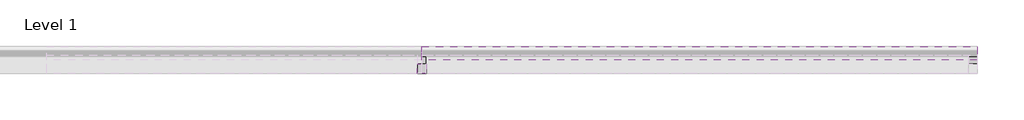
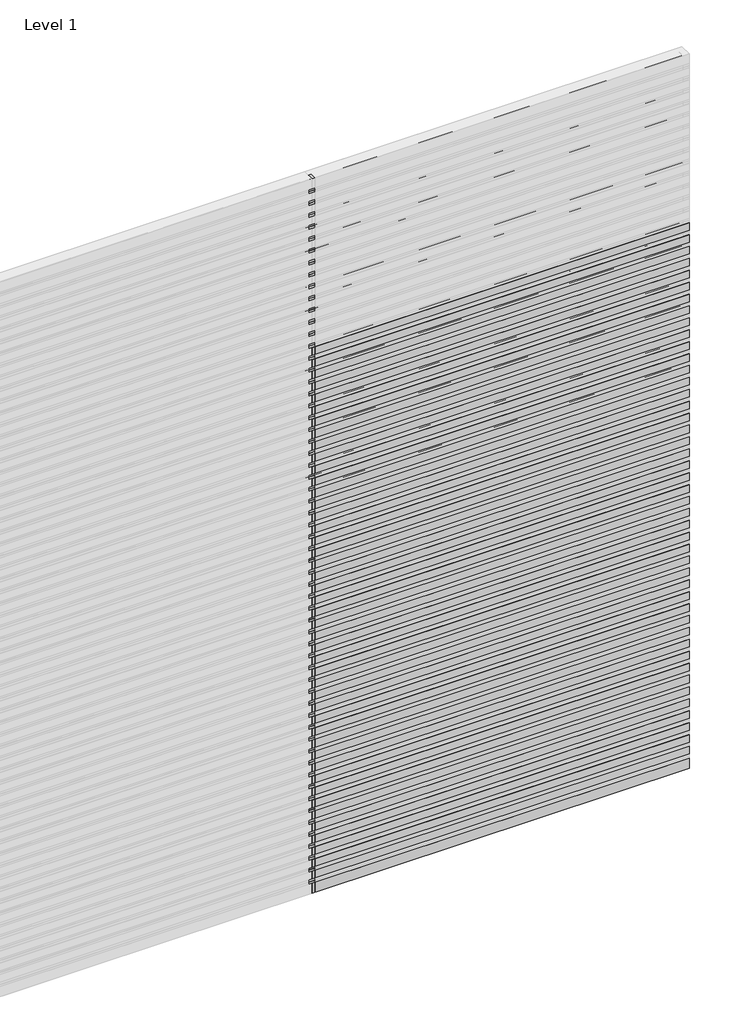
# One storey, part 3 of 4: 89 members, 46 plates.
"""IFC4 building model written with IfcOpenShell, lengths in millimetres."""

from ifc_helpers import new_model, si_unit, origin, place, context, project, spatial, transform, mapped, element, save
from components import rectangular_mullion_c274bac7, rectangular_mullion_ae434dd9, empty_system_panel_empty_03c9d606, empty_system_panel_empty_9aeebe66

model = new_model("IFC4")

# Units and contexts
model_context = context("Model", 3, world=origin())
ifc_project = project(units=[si_unit("LENGTHUNIT", "METRE", prefix="MILLI")], contexts=[model_context])

# Site, building, storey
site = spatial("IfcSite", under=ifc_project)
building = spatial("IfcBuilding", under=site)
storey = spatial("IfcBuildingStorey", under=building, Name="Level 1", Elevation=0.0)

# Members
placement = place(None, origin())
rectangular_mullion_shape = rectangular_mullion_c274bac7(model_context)
element("IfcMember", 1, ObjectType="Rectangular Mullion : RSen_21_CWM_blade - 100 ellips - 45°_gen_duco projects", at=placement, inside=storey, context=model_context, shape_type="MappedRepresentation", body=[
    mapped(rectangular_mullion_shape, transform((3000.0, 3000.0, 3100.0), x_axis=(0.0, 0.0, 1.0), y_axis=(0.0, 1.0, 0.0), z_axis=(-1.0, 0.0, 0.0))),
])
element("IfcMember", 2, ObjectType="Rectangular Mullion : RSen_21_CWM_blade - 100 ellips - 45°_gen_duco projects", at=placement, inside=storey, context=model_context, shape_type="MappedRepresentation", body=[
    mapped(rectangular_mullion_shape, transform((3000.0, 3000.0, 3200.0), x_axis=(0.0, 0.0, 1.0), y_axis=(0.0, 1.0, 0.0), z_axis=(-1.0, 0.0, 0.0))),
])
element("IfcMember", 3, ObjectType="Rectangular Mullion : RSen_21_CWM_blade - 100 ellips - 45°_gen_duco projects", at=placement, inside=storey, context=model_context, shape_type="MappedRepresentation", body=[
    mapped(rectangular_mullion_shape, transform((3000.0, 3000.0, 3300.0), x_axis=(0.0, 0.0, 1.0), y_axis=(0.0, 1.0, 0.0), z_axis=(-1.0, 0.0, 0.0))),
])
element("IfcMember", 4, ObjectType="Rectangular Mullion : RSen_21_CWM_blade - 100 ellips - 45°_gen_duco projects", at=placement, inside=storey, context=model_context, shape_type="MappedRepresentation", body=[
    mapped(rectangular_mullion_shape, transform((3000.0, 3000.0, 3400.0), x_axis=(0.0, 0.0, 1.0), y_axis=(0.0, 1.0, 0.0), z_axis=(-1.0, 0.0, 0.0))),
])
element("IfcMember", 5, ObjectType="Rectangular Mullion : RSen_21_CWM_blade - 100 ellips - 45°_gen_duco projects", at=placement, inside=storey, context=model_context, shape_type="MappedRepresentation", body=[
    mapped(rectangular_mullion_shape, transform((3000.0, 3000.0, 3500.0), x_axis=(0.0, 0.0, 1.0), y_axis=(0.0, 1.0, 0.0), z_axis=(-1.0, 0.0, 0.0))),
])
element("IfcMember", 6, ObjectType="Rectangular Mullion : RSen_21_CWM_blade - 100 ellips - 45°_gen_duco projects", at=placement, inside=storey, context=model_context, shape_type="MappedRepresentation", body=[
    mapped(rectangular_mullion_shape, transform((3000.0, 3000.0, 3600.0), x_axis=(0.0, 0.0, 1.0), y_axis=(0.0, 1.0, 0.0), z_axis=(-1.0, 0.0, 0.0))),
])
element("IfcMember", 7, ObjectType="Rectangular Mullion : RSen_21_CWM_blade - 100 ellips - 45°_gen_duco projects", at=placement, inside=storey, context=model_context, shape_type="MappedRepresentation", body=[
    mapped(rectangular_mullion_shape, transform((3000.0, 3000.0, 3700.0), x_axis=(0.0, 0.0, 1.0), y_axis=(0.0, 1.0, 0.0), z_axis=(-1.0, 0.0, 0.0))),
])
element("IfcMember", 8, ObjectType="Rectangular Mullion : RSen_21_CWM_blade - 100 ellips - 45°_gen_duco projects", at=placement, inside=storey, context=model_context, shape_type="MappedRepresentation", body=[
    mapped(rectangular_mullion_shape, transform((3000.0, 3000.0, 3800.0), x_axis=(0.0, 0.0, 1.0), y_axis=(0.0, 1.0, 0.0), z_axis=(-1.0, 0.0, 0.0))),
])
element("IfcMember", 9, ObjectType="Rectangular Mullion : RSen_21_CWM_blade - 100 ellips - 45°_gen_duco projects", at=placement, inside=storey, context=model_context, shape_type="MappedRepresentation", body=[
    mapped(rectangular_mullion_shape, transform((3000.0, 3000.0, 3900.0), x_axis=(0.0, 0.0, 1.0), y_axis=(0.0, 1.0, 0.0), z_axis=(-1.0, 0.0, 0.0))),
])
element("IfcMember", 10, ObjectType="Rectangular Mullion : RSen_21_CWM_blade - 100 ellips - 45°_gen_duco projects", at=placement, inside=storey, context=model_context, shape_type="MappedRepresentation", body=[
    mapped(rectangular_mullion_shape, transform((3000.0, 3000.0, 4000.0), x_axis=(0.0, 0.0, 1.0), y_axis=(0.0, 1.0, 0.0), z_axis=(-1.0, 0.0, 0.0))),
])
element("IfcMember", 11, ObjectType="Rectangular Mullion : RSen_21_CWM_blade - 100 ellips - 45°_gen_duco projects", at=placement, inside=storey, context=model_context, shape_type="MappedRepresentation", body=[
    mapped(rectangular_mullion_shape, transform((3000.0, 3000.0, 4100.0), x_axis=(0.0, 0.0, 1.0), y_axis=(0.0, 1.0, 0.0), z_axis=(-1.0, 0.0, 0.0))),
])
element("IfcMember", 12, ObjectType="Rectangular Mullion : RSen_21_CWM_blade - 100 ellips - 45°_gen_duco projects", at=placement, inside=storey, context=model_context, shape_type="MappedRepresentation", body=[
    mapped(rectangular_mullion_shape, transform((3000.0, 3000.0, 4200.0), x_axis=(0.0, 0.0, 1.0), y_axis=(0.0, 1.0, 0.0), z_axis=(-1.0, 0.0, 0.0))),
])
element("IfcMember", 13, ObjectType="Rectangular Mullion : RSen_21_CWM_blade - 100 ellips - 45°_gen_duco projects", at=placement, inside=storey, context=model_context, shape_type="MappedRepresentation", body=[
    mapped(rectangular_mullion_shape, transform((3000.0, 3000.0, 4300.0), x_axis=(0.0, 0.0, 1.0), y_axis=(0.0, 1.0, 0.0), z_axis=(-1.0, 0.0, 0.0))),
])
element("IfcMember", 14, ObjectType="Rectangular Mullion : RSen_21_CWM_blade - 100 ellips - 45°_gen_duco projects", at=placement, inside=storey, context=model_context, shape_type="MappedRepresentation", body=[
    mapped(rectangular_mullion_shape, transform((3000.0, 3000.0, 4400.0), x_axis=(0.0, 0.0, 1.0), y_axis=(0.0, 1.0, 0.0), z_axis=(-1.0, 0.0, 0.0))),
])
element("IfcMember", 15, ObjectType="Rectangular Mullion : RSen_21_CWM_blade - 100 ellips - 45°_gen_duco projects", at=placement, inside=storey, context=model_context, shape_type="MappedRepresentation", body=[
    mapped(rectangular_mullion_shape, transform((3000.0, 3000.0, 4500.0), x_axis=(0.0, 0.0, 1.0), y_axis=(0.0, 1.0, 0.0), z_axis=(-1.0, 0.0, 0.0))),
])
element("IfcMember", 16, ObjectType="Rectangular Mullion : RSen_21_CWM_blade - 100 ellips - 45°_gen_duco projects", at=placement, inside=storey, context=model_context, shape_type="MappedRepresentation", body=[
    mapped(rectangular_mullion_shape, transform((3000.0, 3000.0, 4600.0), x_axis=(0.0, 0.0, 1.0), y_axis=(0.0, 1.0, 0.0), z_axis=(-1.0, 0.0, 0.0))),
])
element("IfcMember", 17, ObjectType="Rectangular Mullion : RSen_21_CWM_blade - 100 ellips - 45°_gen_duco projects", at=placement, inside=storey, context=model_context, shape_type="MappedRepresentation", body=[
    mapped(rectangular_mullion_shape, transform((3000.0, 3000.0, 4700.0), x_axis=(0.0, 0.0, 1.0), y_axis=(0.0, 1.0, 0.0), z_axis=(-1.0, 0.0, 0.0))),
])
element("IfcMember", 18, ObjectType="Rectangular Mullion : RSen_21_CWM_blade - 100 ellips - 45°_gen_duco projects", at=placement, inside=storey, context=model_context, shape_type="MappedRepresentation", body=[
    mapped(rectangular_mullion_shape, transform((3000.0, 3000.0, 4800.0), x_axis=(0.0, 0.0, 1.0), y_axis=(0.0, 1.0, 0.0), z_axis=(-1.0, 0.0, 0.0))),
])
element("IfcMember", 19, ObjectType="Rectangular Mullion : RSen_21_CWM_blade - 100 ellips - 45°_gen_duco projects", at=placement, inside=storey, context=model_context, shape_type="MappedRepresentation", body=[
    mapped(rectangular_mullion_shape, transform((3000.0, 3000.0, 4900.0), x_axis=(0.0, 0.0, 1.0), y_axis=(0.0, 1.0, 0.0), z_axis=(-1.0, 0.0, 0.0))),
])
element("IfcMember", 20, ObjectType="Rectangular Mullion : RSen_21_CWM_blade - 100 ellips - 45°_gen_duco projects", at=placement, inside=storey, context=model_context, shape_type="MappedRepresentation", body=[
    mapped(rectangular_mullion_shape, transform((3000.0, 3000.0, 5000.0), x_axis=(0.0, 0.0, 1.0), y_axis=(0.0, 1.0, 0.0), z_axis=(-1.0, 0.0, 0.0))),
])
element("IfcMember", 21, ObjectType="Rectangular Mullion : RSen_21_CWM_blade - 100 ellips - 45°_gen_duco projects", at=placement, inside=storey, context=model_context, shape_type="MappedRepresentation", body=[
    mapped(rectangular_mullion_shape, transform((3000.0, 3000.0, 5100.0), x_axis=(0.0, 0.0, 1.0), y_axis=(0.0, 1.0, 0.0), z_axis=(-1.0, 0.0, 0.0))),
])
element("IfcMember", 22, ObjectType="Rectangular Mullion : RSen_21_CWM_blade - 100 ellips - 45°_gen_duco projects", at=placement, inside=storey, context=model_context, shape_type="MappedRepresentation", body=[
    mapped(rectangular_mullion_shape, transform((3000.0, 3000.0, 5200.0), x_axis=(0.0, 0.0, 1.0), y_axis=(0.0, 1.0, 0.0), z_axis=(-1.0, 0.0, 0.0))),
])
element("IfcMember", 23, ObjectType="Rectangular Mullion : RSen_21_CWM_blade - 100 ellips - 45°_gen_duco projects", at=placement, inside=storey, context=model_context, shape_type="MappedRepresentation", body=[
    mapped(rectangular_mullion_shape, transform((3000.0, 3000.0, 5300.0), x_axis=(0.0, 0.0, 1.0), y_axis=(0.0, 1.0, 0.0), z_axis=(-1.0, 0.0, 0.0))),
])
element("IfcMember", 24, ObjectType="Rectangular Mullion : RSen_21_CWM_blade - 100 ellips - 45°_gen_duco projects", at=placement, inside=storey, context=model_context, shape_type="MappedRepresentation", body=[
    mapped(rectangular_mullion_shape, transform((3000.0, 3000.0, 5400.0), x_axis=(0.0, 0.0, 1.0), y_axis=(0.0, 1.0, 0.0), z_axis=(-1.0, 0.0, 0.0))),
])
element("IfcMember", 25, ObjectType="Rectangular Mullion : RSen_21_CWM_blade - 100 ellips - 45°_gen_duco projects", at=placement, inside=storey, context=model_context, shape_type="MappedRepresentation", body=[
    mapped(rectangular_mullion_shape, transform((3000.0, 3000.0, 5500.0), x_axis=(0.0, 0.0, 1.0), y_axis=(0.0, 1.0, 0.0), z_axis=(-1.0, 0.0, 0.0))),
])
element("IfcMember", 26, ObjectType="Rectangular Mullion : RSen_21_CWM_blade - 100 ellips - 45°_gen_duco projects", at=placement, inside=storey, context=model_context, shape_type="MappedRepresentation", body=[
    mapped(rectangular_mullion_shape, transform((3000.0, 3000.0, 5600.0), x_axis=(0.0, 0.0, 1.0), y_axis=(0.0, 1.0, 0.0), z_axis=(-1.0, 0.0, 0.0))),
])
element("IfcMember", 27, ObjectType="Rectangular Mullion : RSen_21_CWM_blade - 100 ellips - 45°_gen_duco projects", at=placement, inside=storey, context=model_context, shape_type="MappedRepresentation", body=[
    mapped(rectangular_mullion_shape, transform((3000.0, 3000.0, 5700.0), x_axis=(0.0, 0.0, 1.0), y_axis=(0.0, 1.0, 0.0), z_axis=(-1.0, 0.0, 0.0))),
])
element("IfcMember", 28, ObjectType="Rectangular Mullion : RSen_21_CWM_blade - 100 ellips - 45°_gen_duco projects", at=placement, inside=storey, context=model_context, shape_type="MappedRepresentation", body=[
    mapped(rectangular_mullion_shape, transform((3000.0, 3000.0, 5800.0), x_axis=(0.0, 0.0, 1.0), y_axis=(0.0, 1.0, 0.0), z_axis=(-1.0, 0.0, 0.0))),
])
element("IfcMember", 29, ObjectType="Rectangular Mullion : RSen_21_CWM_blade - 100 ellips - 45°_gen_duco projects", at=placement, inside=storey, context=model_context, shape_type="MappedRepresentation", body=[
    mapped(rectangular_mullion_shape, transform((3000.0, 3000.0, 5900.0), x_axis=(0.0, 0.0, 1.0), y_axis=(0.0, 1.0, 0.0), z_axis=(-1.0, 0.0, 0.0))),
])
rectangular_mullion_2_shape = rectangular_mullion_ae434dd9(model_context)
element("IfcMember", 30, ObjectType="Rectangular Mullion : RSen_21_CWM_support profile 50x50_gen_duco projects", at=placement, inside=storey, context=model_context, shape_type="MappedRepresentation", body=[
    mapped(rectangular_mullion_2_shape, transform((3000.0, 3000.0, 0.0), x_axis=(-1.0, 0.0, 0.0), y_axis=(0.0, 1.0, 0.0), z_axis=(0.0, 0.0, -1.0))),
])
element("IfcMember", 31, ObjectType="Rectangular Mullion : RSen_21_CWM_support profile 50x50_gen_duco projects", at=placement, inside=storey, context=model_context, shape_type="MappedRepresentation", body=[
    mapped(rectangular_mullion_2_shape, transform((3000.0, 3000.0, 100.0), x_axis=(-1.0, 0.0, 0.0), y_axis=(0.0, 1.0, 0.0), z_axis=(0.0, 0.0, -1.0))),
])
element("IfcMember", 32, ObjectType="Rectangular Mullion : RSen_21_CWM_support profile 50x50_gen_duco projects", at=placement, inside=storey, context=model_context, shape_type="MappedRepresentation", body=[
    mapped(rectangular_mullion_2_shape, transform((3000.0, 3000.0, 200.0), x_axis=(-1.0, 0.0, 0.0), y_axis=(0.0, 1.0, 0.0), z_axis=(0.0, 0.0, -1.0))),
])
element("IfcMember", 33, ObjectType="Rectangular Mullion : RSen_21_CWM_support profile 50x50_gen_duco projects", at=placement, inside=storey, context=model_context, shape_type="MappedRepresentation", body=[
    mapped(rectangular_mullion_2_shape, transform((3000.0, 3000.0, 300.0), x_axis=(-1.0, 0.0, 0.0), y_axis=(0.0, 1.0, 0.0), z_axis=(0.0, 0.0, -1.0))),
])
element("IfcMember", 34, ObjectType="Rectangular Mullion : RSen_21_CWM_support profile 50x50_gen_duco projects", at=placement, inside=storey, context=model_context, shape_type="MappedRepresentation", body=[
    mapped(rectangular_mullion_2_shape, transform((3000.0, 3000.0, 400.0), x_axis=(-1.0, 0.0, 0.0), y_axis=(0.0, 1.0, 0.0), z_axis=(0.0, 0.0, -1.0))),
])
element("IfcMember", 35, ObjectType="Rectangular Mullion : RSen_21_CWM_support profile 50x50_gen_duco projects", at=placement, inside=storey, context=model_context, shape_type="MappedRepresentation", body=[
    mapped(rectangular_mullion_2_shape, transform((3000.0, 3000.0, 500.0), x_axis=(-1.0, 0.0, 0.0), y_axis=(0.0, 1.0, 0.0), z_axis=(0.0, 0.0, -1.0))),
])
element("IfcMember", 36, ObjectType="Rectangular Mullion : RSen_21_CWM_support profile 50x50_gen_duco projects", at=placement, inside=storey, context=model_context, shape_type="MappedRepresentation", body=[
    mapped(rectangular_mullion_2_shape, transform((3000.0, 3000.0, 600.0), x_axis=(-1.0, 0.0, 0.0), y_axis=(0.0, 1.0, 0.0), z_axis=(0.0, 0.0, -1.0))),
])
element("IfcMember", 37, ObjectType="Rectangular Mullion : RSen_21_CWM_support profile 50x50_gen_duco projects", at=placement, inside=storey, context=model_context, shape_type="MappedRepresentation", body=[
    mapped(rectangular_mullion_2_shape, transform((3000.0, 3000.0, 700.0), x_axis=(-1.0, 0.0, 0.0), y_axis=(0.0, 1.0, 0.0), z_axis=(0.0, 0.0, -1.0))),
])
element("IfcMember", 38, ObjectType="Rectangular Mullion : RSen_21_CWM_support profile 50x50_gen_duco projects", at=placement, inside=storey, context=model_context, shape_type="MappedRepresentation", body=[
    mapped(rectangular_mullion_2_shape, transform((3000.0, 3000.0, 800.0), x_axis=(-1.0, 0.0, 0.0), y_axis=(0.0, 1.0, 0.0), z_axis=(0.0, 0.0, -1.0))),
])
element("IfcMember", 39, ObjectType="Rectangular Mullion : RSen_21_CWM_support profile 50x50_gen_duco projects", at=placement, inside=storey, context=model_context, shape_type="MappedRepresentation", body=[
    mapped(rectangular_mullion_2_shape, transform((3000.0, 3000.0, 900.0), x_axis=(-1.0, 0.0, 0.0), y_axis=(0.0, 1.0, 0.0), z_axis=(0.0, 0.0, -1.0))),
])
element("IfcMember", 40, ObjectType="Rectangular Mullion : RSen_21_CWM_support profile 50x50_gen_duco projects", at=placement, inside=storey, context=model_context, shape_type="MappedRepresentation", body=[
    mapped(rectangular_mullion_2_shape, transform((3000.0, 3000.0, 1000.0), x_axis=(-1.0, 0.0, 0.0), y_axis=(0.0, 1.0, 0.0), z_axis=(0.0, 0.0, -1.0))),
])
element("IfcMember", 41, ObjectType="Rectangular Mullion : RSen_21_CWM_support profile 50x50_gen_duco projects", at=placement, inside=storey, context=model_context, shape_type="MappedRepresentation", body=[
    mapped(rectangular_mullion_2_shape, transform((3000.0, 3000.0, 1100.0), x_axis=(-1.0, 0.0, 0.0), y_axis=(0.0, 1.0, 0.0), z_axis=(0.0, 0.0, -1.0))),
])
element("IfcMember", 42, ObjectType="Rectangular Mullion : RSen_21_CWM_support profile 50x50_gen_duco projects", at=placement, inside=storey, context=model_context, shape_type="MappedRepresentation", body=[
    mapped(rectangular_mullion_2_shape, transform((3000.0, 3000.0, 1200.0), x_axis=(-1.0, 0.0, 0.0), y_axis=(0.0, 1.0, 0.0), z_axis=(0.0, 0.0, -1.0))),
])
element("IfcMember", 43, ObjectType="Rectangular Mullion : RSen_21_CWM_support profile 50x50_gen_duco projects", at=placement, inside=storey, context=model_context, shape_type="MappedRepresentation", body=[
    mapped(rectangular_mullion_2_shape, transform((3000.0, 3000.0, 1300.0), x_axis=(-1.0, 0.0, 0.0), y_axis=(0.0, 1.0, 0.0), z_axis=(0.0, 0.0, -1.0))),
])
element("IfcMember", 44, ObjectType="Rectangular Mullion : RSen_21_CWM_support profile 50x50_gen_duco projects", at=placement, inside=storey, context=model_context, shape_type="MappedRepresentation", body=[
    mapped(rectangular_mullion_2_shape, transform((3000.0, 3000.0, 1400.0), x_axis=(-1.0, 0.0, 0.0), y_axis=(0.0, 1.0, 0.0), z_axis=(0.0, 0.0, -1.0))),
])
element("IfcMember", 45, ObjectType="Rectangular Mullion : RSen_21_CWM_support profile 50x50_gen_duco projects", at=placement, inside=storey, context=model_context, shape_type="MappedRepresentation", body=[
    mapped(rectangular_mullion_2_shape, transform((3000.0, 3000.0, 1500.0), x_axis=(-1.0, 0.0, 0.0), y_axis=(0.0, 1.0, 0.0), z_axis=(0.0, 0.0, -1.0))),
])
element("IfcMember", 46, ObjectType="Rectangular Mullion : RSen_21_CWM_support profile 50x50_gen_duco projects", at=placement, inside=storey, context=model_context, shape_type="MappedRepresentation", body=[
    mapped(rectangular_mullion_2_shape, transform((3000.0, 3000.0, 1600.0), x_axis=(-1.0, 0.0, 0.0), y_axis=(0.0, 1.0, 0.0), z_axis=(0.0, 0.0, -1.0))),
])
element("IfcMember", 47, ObjectType="Rectangular Mullion : RSen_21_CWM_support profile 50x50_gen_duco projects", at=placement, inside=storey, context=model_context, shape_type="MappedRepresentation", body=[
    mapped(rectangular_mullion_2_shape, transform((3000.0, 3000.0, 1700.0), x_axis=(-1.0, 0.0, 0.0), y_axis=(0.0, 1.0, 0.0), z_axis=(0.0, 0.0, -1.0))),
])
element("IfcMember", 48, ObjectType="Rectangular Mullion : RSen_21_CWM_support profile 50x50_gen_duco projects", at=placement, inside=storey, context=model_context, shape_type="MappedRepresentation", body=[
    mapped(rectangular_mullion_2_shape, transform((3000.0, 3000.0, 1800.0), x_axis=(-1.0, 0.0, 0.0), y_axis=(0.0, 1.0, 0.0), z_axis=(0.0, 0.0, -1.0))),
])
element("IfcMember", 49, ObjectType="Rectangular Mullion : RSen_21_CWM_support profile 50x50_gen_duco projects", at=placement, inside=storey, context=model_context, shape_type="MappedRepresentation", body=[
    mapped(rectangular_mullion_2_shape, transform((3000.0, 3000.0, 1900.0), x_axis=(-1.0, 0.0, 0.0), y_axis=(0.0, 1.0, 0.0), z_axis=(0.0, 0.0, -1.0))),
])
element("IfcMember", 50, ObjectType="Rectangular Mullion : RSen_21_CWM_support profile 50x50_gen_duco projects", at=placement, inside=storey, context=model_context, shape_type="MappedRepresentation", body=[
    mapped(rectangular_mullion_2_shape, transform((3000.0, 3000.0, 2000.0), x_axis=(-1.0, 0.0, 0.0), y_axis=(0.0, 1.0, 0.0), z_axis=(0.0, 0.0, -1.0))),
])
element("IfcMember", 51, ObjectType="Rectangular Mullion : RSen_21_CWM_support profile 50x50_gen_duco projects", at=placement, inside=storey, context=model_context, shape_type="MappedRepresentation", body=[
    mapped(rectangular_mullion_2_shape, transform((3000.0, 3000.0, 2100.0), x_axis=(-1.0, 0.0, 0.0), y_axis=(0.0, 1.0, 0.0), z_axis=(0.0, 0.0, -1.0))),
])
element("IfcMember", 52, ObjectType="Rectangular Mullion : RSen_21_CWM_support profile 50x50_gen_duco projects", at=placement, inside=storey, context=model_context, shape_type="MappedRepresentation", body=[
    mapped(rectangular_mullion_2_shape, transform((3000.0, 3000.0, 2200.0), x_axis=(-1.0, 0.0, 0.0), y_axis=(0.0, 1.0, 0.0), z_axis=(0.0, 0.0, -1.0))),
])
element("IfcMember", 53, ObjectType="Rectangular Mullion : RSen_21_CWM_support profile 50x50_gen_duco projects", at=placement, inside=storey, context=model_context, shape_type="MappedRepresentation", body=[
    mapped(rectangular_mullion_2_shape, transform((3000.0, 3000.0, 2300.0), x_axis=(-1.0, 0.0, 0.0), y_axis=(0.0, 1.0, 0.0), z_axis=(0.0, 0.0, -1.0))),
])
element("IfcMember", 54, ObjectType="Rectangular Mullion : RSen_21_CWM_support profile 50x50_gen_duco projects", at=placement, inside=storey, context=model_context, shape_type="MappedRepresentation", body=[
    mapped(rectangular_mullion_2_shape, transform((3000.0, 3000.0, 2400.0), x_axis=(-1.0, 0.0, 0.0), y_axis=(0.0, 1.0, 0.0), z_axis=(0.0, 0.0, -1.0))),
])
element("IfcMember", 55, ObjectType="Rectangular Mullion : RSen_21_CWM_support profile 50x50_gen_duco projects", at=placement, inside=storey, context=model_context, shape_type="MappedRepresentation", body=[
    mapped(rectangular_mullion_2_shape, transform((3000.0, 3000.0, 2500.0), x_axis=(-1.0, 0.0, 0.0), y_axis=(0.0, 1.0, 0.0), z_axis=(0.0, 0.0, -1.0))),
])
element("IfcMember", 56, ObjectType="Rectangular Mullion : RSen_21_CWM_support profile 50x50_gen_duco projects", at=placement, inside=storey, context=model_context, shape_type="MappedRepresentation", body=[
    mapped(rectangular_mullion_2_shape, transform((3000.0, 3000.0, 2600.0), x_axis=(-1.0, 0.0, 0.0), y_axis=(0.0, 1.0, 0.0), z_axis=(0.0, 0.0, -1.0))),
])
element("IfcMember", 57, ObjectType="Rectangular Mullion : RSen_21_CWM_support profile 50x50_gen_duco projects", at=placement, inside=storey, context=model_context, shape_type="MappedRepresentation", body=[
    mapped(rectangular_mullion_2_shape, transform((3000.0, 3000.0, 2700.0), x_axis=(-1.0, 0.0, 0.0), y_axis=(0.0, 1.0, 0.0), z_axis=(0.0, 0.0, -1.0))),
])
element("IfcMember", 58, ObjectType="Rectangular Mullion : RSen_21_CWM_support profile 50x50_gen_duco projects", at=placement, inside=storey, context=model_context, shape_type="MappedRepresentation", body=[
    mapped(rectangular_mullion_2_shape, transform((3000.0, 3000.0, 2800.0), x_axis=(-1.0, 0.0, 0.0), y_axis=(0.0, 1.0, 0.0), z_axis=(0.0, 0.0, -1.0))),
])
element("IfcMember", 59, ObjectType="Rectangular Mullion : RSen_21_CWM_support profile 50x50_gen_duco projects", at=placement, inside=storey, context=model_context, shape_type="MappedRepresentation", body=[
    mapped(rectangular_mullion_2_shape, transform((3000.0, 3000.0, 2900.0), x_axis=(-1.0, 0.0, 0.0), y_axis=(0.0, 1.0, 0.0), z_axis=(0.0, 0.0, -1.0))),
])
element("IfcMember", 60, ObjectType="Rectangular Mullion : RSen_21_CWM_support profile 50x50_gen_duco projects", at=placement, inside=storey, context=model_context, shape_type="MappedRepresentation", body=[
    mapped(rectangular_mullion_2_shape, transform((3000.0, 3000.0, 3000.0), x_axis=(-1.0, 0.0, 0.0), y_axis=(0.0, 1.0, 0.0), z_axis=(0.0, 0.0, -1.0))),
])
element("IfcMember", 61, ObjectType="Rectangular Mullion : RSen_21_CWM_support profile 50x50_gen_duco projects", at=placement, inside=storey, context=model_context, shape_type="MappedRepresentation", body=[
    mapped(rectangular_mullion_2_shape, transform((3000.0, 3000.0, 3100.0), x_axis=(-1.0, 0.0, 0.0), y_axis=(0.0, 1.0, 0.0), z_axis=(0.0, 0.0, -1.0))),
])
element("IfcMember", 62, ObjectType="Rectangular Mullion : RSen_21_CWM_support profile 50x50_gen_duco projects", at=placement, inside=storey, context=model_context, shape_type="MappedRepresentation", body=[
    mapped(rectangular_mullion_2_shape, transform((3000.0, 3000.0, 3200.0), x_axis=(-1.0, 0.0, 0.0), y_axis=(0.0, 1.0, 0.0), z_axis=(0.0, 0.0, -1.0))),
])
element("IfcMember", 63, ObjectType="Rectangular Mullion : RSen_21_CWM_support profile 50x50_gen_duco projects", at=placement, inside=storey, context=model_context, shape_type="MappedRepresentation", body=[
    mapped(rectangular_mullion_2_shape, transform((3000.0, 3000.0, 3300.0), x_axis=(-1.0, 0.0, 0.0), y_axis=(0.0, 1.0, 0.0), z_axis=(0.0, 0.0, -1.0))),
])
element("IfcMember", 64, ObjectType="Rectangular Mullion : RSen_21_CWM_support profile 50x50_gen_duco projects", at=placement, inside=storey, context=model_context, shape_type="MappedRepresentation", body=[
    mapped(rectangular_mullion_2_shape, transform((3000.0, 3000.0, 3400.0), x_axis=(-1.0, 0.0, 0.0), y_axis=(0.0, 1.0, 0.0), z_axis=(0.0, 0.0, -1.0))),
])
element("IfcMember", 65, ObjectType="Rectangular Mullion : RSen_21_CWM_support profile 50x50_gen_duco projects", at=placement, inside=storey, context=model_context, shape_type="MappedRepresentation", body=[
    mapped(rectangular_mullion_2_shape, transform((3000.0, 3000.0, 3500.0), x_axis=(-1.0, 0.0, 0.0), y_axis=(0.0, 1.0, 0.0), z_axis=(0.0, 0.0, -1.0))),
])
element("IfcMember", 66, ObjectType="Rectangular Mullion : RSen_21_CWM_support profile 50x50_gen_duco projects", at=placement, inside=storey, context=model_context, shape_type="MappedRepresentation", body=[
    mapped(rectangular_mullion_2_shape, transform((3000.0, 3000.0, 3600.0), x_axis=(-1.0, 0.0, 0.0), y_axis=(0.0, 1.0, 0.0), z_axis=(0.0, 0.0, -1.0))),
])
element("IfcMember", 67, ObjectType="Rectangular Mullion : RSen_21_CWM_support profile 50x50_gen_duco projects", at=placement, inside=storey, context=model_context, shape_type="MappedRepresentation", body=[
    mapped(rectangular_mullion_2_shape, transform((3000.0, 3000.0, 3700.0), x_axis=(-1.0, 0.0, 0.0), y_axis=(0.0, 1.0, 0.0), z_axis=(0.0, 0.0, -1.0))),
])
element("IfcMember", 68, ObjectType="Rectangular Mullion : RSen_21_CWM_support profile 50x50_gen_duco projects", at=placement, inside=storey, context=model_context, shape_type="MappedRepresentation", body=[
    mapped(rectangular_mullion_2_shape, transform((3000.0, 3000.0, 3800.0), x_axis=(-1.0, 0.0, 0.0), y_axis=(0.0, 1.0, 0.0), z_axis=(0.0, 0.0, -1.0))),
])
element("IfcMember", 69, ObjectType="Rectangular Mullion : RSen_21_CWM_support profile 50x50_gen_duco projects", at=placement, inside=storey, context=model_context, shape_type="MappedRepresentation", body=[
    mapped(rectangular_mullion_2_shape, transform((3000.0, 3000.0, 3900.0), x_axis=(-1.0, 0.0, 0.0), y_axis=(0.0, 1.0, 0.0), z_axis=(0.0, 0.0, -1.0))),
])
element("IfcMember", 70, ObjectType="Rectangular Mullion : RSen_21_CWM_support profile 50x50_gen_duco projects", at=placement, inside=storey, context=model_context, shape_type="MappedRepresentation", body=[
    mapped(rectangular_mullion_2_shape, transform((3000.0, 3000.0, 4000.0), x_axis=(-1.0, 0.0, 0.0), y_axis=(0.0, 1.0, 0.0), z_axis=(0.0, 0.0, -1.0))),
])
element("IfcMember", 71, ObjectType="Rectangular Mullion : RSen_21_CWM_support profile 50x50_gen_duco projects", at=placement, inside=storey, context=model_context, shape_type="MappedRepresentation", body=[
    mapped(rectangular_mullion_2_shape, transform((3000.0, 3000.0, 4100.0), x_axis=(-1.0, 0.0, 0.0), y_axis=(0.0, 1.0, 0.0), z_axis=(0.0, 0.0, -1.0))),
])
element("IfcMember", 72, ObjectType="Rectangular Mullion : RSen_21_CWM_support profile 50x50_gen_duco projects", at=placement, inside=storey, context=model_context, shape_type="MappedRepresentation", body=[
    mapped(rectangular_mullion_2_shape, transform((3000.0, 3000.0, 4200.0), x_axis=(-1.0, 0.0, 0.0), y_axis=(0.0, 1.0, 0.0), z_axis=(0.0, 0.0, -1.0))),
])
element("IfcMember", 73, ObjectType="Rectangular Mullion : RSen_21_CWM_support profile 50x50_gen_duco projects", at=placement, inside=storey, context=model_context, shape_type="MappedRepresentation", body=[
    mapped(rectangular_mullion_2_shape, transform((3000.0, 3000.0, 4300.0), x_axis=(-1.0, 0.0, 0.0), y_axis=(0.0, 1.0, 0.0), z_axis=(0.0, 0.0, -1.0))),
])
element("IfcMember", 74, ObjectType="Rectangular Mullion : RSen_21_CWM_support profile 50x50_gen_duco projects", at=placement, inside=storey, context=model_context, shape_type="MappedRepresentation", body=[
    mapped(rectangular_mullion_2_shape, transform((3000.0, 3000.0, 4400.0), x_axis=(-1.0, 0.0, 0.0), y_axis=(0.0, 1.0, 0.0), z_axis=(0.0, 0.0, -1.0))),
])
element("IfcMember", 75, ObjectType="Rectangular Mullion : RSen_21_CWM_support profile 50x50_gen_duco projects", at=placement, inside=storey, context=model_context, shape_type="MappedRepresentation", body=[
    mapped(rectangular_mullion_2_shape, transform((3000.0, 3000.0, 4500.0), x_axis=(-1.0, 0.0, 0.0), y_axis=(0.0, 1.0, 0.0), z_axis=(0.0, 0.0, -1.0))),
])
element("IfcMember", 76, ObjectType="Rectangular Mullion : RSen_21_CWM_support profile 50x50_gen_duco projects", at=placement, inside=storey, context=model_context, shape_type="MappedRepresentation", body=[
    mapped(rectangular_mullion_2_shape, transform((3000.0, 3000.0, 4600.0), x_axis=(-1.0, 0.0, 0.0), y_axis=(0.0, 1.0, 0.0), z_axis=(0.0, 0.0, -1.0))),
])
element("IfcMember", 77, ObjectType="Rectangular Mullion : RSen_21_CWM_support profile 50x50_gen_duco projects", at=placement, inside=storey, context=model_context, shape_type="MappedRepresentation", body=[
    mapped(rectangular_mullion_2_shape, transform((3000.0, 3000.0, 4700.0), x_axis=(-1.0, 0.0, 0.0), y_axis=(0.0, 1.0, 0.0), z_axis=(0.0, 0.0, -1.0))),
])
element("IfcMember", 78, ObjectType="Rectangular Mullion : RSen_21_CWM_support profile 50x50_gen_duco projects", at=placement, inside=storey, context=model_context, shape_type="MappedRepresentation", body=[
    mapped(rectangular_mullion_2_shape, transform((3000.0, 3000.0, 4800.0), x_axis=(-1.0, 0.0, 0.0), y_axis=(0.0, 1.0, 0.0), z_axis=(0.0, 0.0, -1.0))),
])
element("IfcMember", 79, ObjectType="Rectangular Mullion : RSen_21_CWM_support profile 50x50_gen_duco projects", at=placement, inside=storey, context=model_context, shape_type="MappedRepresentation", body=[
    mapped(rectangular_mullion_2_shape, transform((3000.0, 3000.0, 4900.0), x_axis=(-1.0, 0.0, 0.0), y_axis=(0.0, 1.0, 0.0), z_axis=(0.0, 0.0, -1.0))),
])
element("IfcMember", 80, ObjectType="Rectangular Mullion : RSen_21_CWM_support profile 50x50_gen_duco projects", at=placement, inside=storey, context=model_context, shape_type="MappedRepresentation", body=[
    mapped(rectangular_mullion_2_shape, transform((3000.0, 3000.0, 5000.0), x_axis=(-1.0, 0.0, 0.0), y_axis=(0.0, 1.0, 0.0), z_axis=(0.0, 0.0, -1.0))),
])
element("IfcMember", 81, ObjectType="Rectangular Mullion : RSen_21_CWM_support profile 50x50_gen_duco projects", at=placement, inside=storey, context=model_context, shape_type="MappedRepresentation", body=[
    mapped(rectangular_mullion_2_shape, transform((3000.0, 3000.0, 5100.0), x_axis=(-1.0, 0.0, 0.0), y_axis=(0.0, 1.0, 0.0), z_axis=(0.0, 0.0, -1.0))),
])
element("IfcMember", 82, ObjectType="Rectangular Mullion : RSen_21_CWM_support profile 50x50_gen_duco projects", at=placement, inside=storey, context=model_context, shape_type="MappedRepresentation", body=[
    mapped(rectangular_mullion_2_shape, transform((3000.0, 3000.0, 5200.0), x_axis=(-1.0, 0.0, 0.0), y_axis=(0.0, 1.0, 0.0), z_axis=(0.0, 0.0, -1.0))),
])
element("IfcMember", 83, ObjectType="Rectangular Mullion : RSen_21_CWM_support profile 50x50_gen_duco projects", at=placement, inside=storey, context=model_context, shape_type="MappedRepresentation", body=[
    mapped(rectangular_mullion_2_shape, transform((3000.0, 3000.0, 5300.0), x_axis=(-1.0, 0.0, 0.0), y_axis=(0.0, 1.0, 0.0), z_axis=(0.0, 0.0, -1.0))),
])
element("IfcMember", 84, ObjectType="Rectangular Mullion : RSen_21_CWM_support profile 50x50_gen_duco projects", at=placement, inside=storey, context=model_context, shape_type="MappedRepresentation", body=[
    mapped(rectangular_mullion_2_shape, transform((3000.0, 3000.0, 5400.0), x_axis=(-1.0, 0.0, 0.0), y_axis=(0.0, 1.0, 0.0), z_axis=(0.0, 0.0, -1.0))),
])
element("IfcMember", 85, ObjectType="Rectangular Mullion : RSen_21_CWM_support profile 50x50_gen_duco projects", at=placement, inside=storey, context=model_context, shape_type="MappedRepresentation", body=[
    mapped(rectangular_mullion_2_shape, transform((3000.0, 3000.0, 5500.0), x_axis=(-1.0, 0.0, 0.0), y_axis=(0.0, 1.0, 0.0), z_axis=(0.0, 0.0, -1.0))),
])
element("IfcMember", 86, ObjectType="Rectangular Mullion : RSen_21_CWM_support profile 50x50_gen_duco projects", at=placement, inside=storey, context=model_context, shape_type="MappedRepresentation", body=[
    mapped(rectangular_mullion_2_shape, transform((3000.0, 3000.0, 5600.0), x_axis=(-1.0, 0.0, 0.0), y_axis=(0.0, 1.0, 0.0), z_axis=(0.0, 0.0, -1.0))),
])
element("IfcMember", 87, ObjectType="Rectangular Mullion : RSen_21_CWM_support profile 50x50_gen_duco projects", at=placement, inside=storey, context=model_context, shape_type="MappedRepresentation", body=[
    mapped(rectangular_mullion_2_shape, transform((3000.0, 3000.0, 5700.0), x_axis=(-1.0, 0.0, 0.0), y_axis=(0.0, 1.0, 0.0), z_axis=(0.0, 0.0, -1.0))),
])
element("IfcMember", 88, ObjectType="Rectangular Mullion : RSen_21_CWM_support profile 50x50_gen_duco projects", at=placement, inside=storey, context=model_context, shape_type="MappedRepresentation", body=[
    mapped(rectangular_mullion_2_shape, transform((3000.0, 3000.0, 5800.0), x_axis=(-1.0, 0.0, 0.0), y_axis=(0.0, 1.0, 0.0), z_axis=(0.0, 0.0, -1.0))),
])
element("IfcMember", 89, ObjectType="Rectangular Mullion : RSen_21_CWM_support profile 50x50_gen_duco projects", at=placement, inside=storey, context=model_context, shape_type="MappedRepresentation", body=[
    mapped(rectangular_mullion_2_shape, transform((3000.0, 3000.0, 5900.0), x_axis=(-1.0, 0.0, 0.0), y_axis=(0.0, 1.0, 0.0), z_axis=(0.0, 0.0, -1.0))),
])

# Plates
empty_system_panel_empty_shape = empty_system_panel_empty_03c9d606(model_context)
element("IfcPlate", 90, ObjectType="Empty System Panel : Empty", at=placement, inside=storey, context=model_context, shape_type="MappedRepresentation", body=[
    mapped(empty_system_panel_empty_shape, transform((4500.0, 3000.0, 0.0), x_axis=(-1.0, 0.0, 0.0), y_axis=(0.0, -1.0, 0.0), z_axis=(0.0, 0.0, 1.0))),
])
empty_system_panel_empty_2_shape = empty_system_panel_empty_9aeebe66(model_context)
element("IfcPlate", 91, ObjectType="Empty System Panel : Empty", at=placement, inside=storey, context=model_context, shape_type="MappedRepresentation", body=[
    mapped(empty_system_panel_empty_2_shape, transform((4500.0, 3000.0, 118.3847763), x_axis=(-1.0, 0.0, 0.0), y_axis=(0.0, -1.0, 0.0), z_axis=(0.0, 0.0, 1.0))),
])
element("IfcPlate", 92, ObjectType="Empty System Panel : Empty", at=placement, inside=storey, context=model_context, shape_type="MappedRepresentation", body=[
    mapped(empty_system_panel_empty_2_shape, transform((4500.0, 3000.0, 218.3847763), x_axis=(-1.0, 0.0, 0.0), y_axis=(0.0, -1.0, 0.0), z_axis=(0.0, 0.0, 1.0))),
])
element("IfcPlate", 93, ObjectType="Empty System Panel : Empty", at=placement, inside=storey, context=model_context, shape_type="MappedRepresentation", body=[
    mapped(empty_system_panel_empty_2_shape, transform((4500.0, 3000.0, 318.3847763), x_axis=(-1.0, 0.0, 0.0), y_axis=(0.0, -1.0, 0.0), z_axis=(0.0, 0.0, 1.0))),
])
element("IfcPlate", 94, ObjectType="Empty System Panel : Empty", at=placement, inside=storey, context=model_context, shape_type="MappedRepresentation", body=[
    mapped(empty_system_panel_empty_2_shape, transform((4500.0, 3000.0, 418.3847763), x_axis=(-1.0, 0.0, 0.0), y_axis=(0.0, -1.0, 0.0), z_axis=(0.0, 0.0, 1.0))),
])
element("IfcPlate", 95, ObjectType="Empty System Panel : Empty", at=placement, inside=storey, context=model_context, shape_type="MappedRepresentation", body=[
    mapped(empty_system_panel_empty_2_shape, transform((4500.0, 3000.0, 518.3847763), x_axis=(-1.0, 0.0, 0.0), y_axis=(0.0, -1.0, 0.0), z_axis=(0.0, 0.0, 1.0))),
])
element("IfcPlate", 96, ObjectType="Empty System Panel : Empty", at=placement, inside=storey, context=model_context, shape_type="MappedRepresentation", body=[
    mapped(empty_system_panel_empty_2_shape, transform((4500.0, 3000.0, 618.3847763), x_axis=(-1.0, 0.0, 0.0), y_axis=(0.0, -1.0, 0.0), z_axis=(0.0, 0.0, 1.0))),
])
element("IfcPlate", 97, ObjectType="Empty System Panel : Empty", at=placement, inside=storey, context=model_context, shape_type="MappedRepresentation", body=[
    mapped(empty_system_panel_empty_2_shape, transform((4500.0, 3000.0, 718.3847763), x_axis=(-1.0, 0.0, 0.0), y_axis=(0.0, -1.0, 0.0), z_axis=(0.0, 0.0, 1.0))),
])
element("IfcPlate", 98, ObjectType="Empty System Panel : Empty", at=placement, inside=storey, context=model_context, shape_type="MappedRepresentation", body=[
    mapped(empty_system_panel_empty_2_shape, transform((4500.0, 3000.0, 818.3847763), x_axis=(-1.0, 0.0, 0.0), y_axis=(0.0, -1.0, 0.0), z_axis=(0.0, 0.0, 1.0))),
])
element("IfcPlate", 99, ObjectType="Empty System Panel : Empty", at=placement, inside=storey, context=model_context, shape_type="MappedRepresentation", body=[
    mapped(empty_system_panel_empty_2_shape, transform((4500.0, 3000.0, 918.3847763), x_axis=(-1.0, 0.0, 0.0), y_axis=(0.0, -1.0, 0.0), z_axis=(0.0, 0.0, 1.0))),
])
element("IfcPlate", 100, ObjectType="Empty System Panel : Empty", at=placement, inside=storey, context=model_context, shape_type="MappedRepresentation", body=[
    mapped(empty_system_panel_empty_2_shape, transform((4500.0, 3000.0, 1018.3847763), x_axis=(-1.0, 0.0, 0.0), y_axis=(0.0, -1.0, 0.0), z_axis=(0.0, 0.0, 1.0))),
])
element("IfcPlate", 101, ObjectType="Empty System Panel : Empty", at=placement, inside=storey, context=model_context, shape_type="MappedRepresentation", body=[
    mapped(empty_system_panel_empty_2_shape, transform((4500.0, 3000.0, 1118.3847763), x_axis=(-1.0, 0.0, 0.0), y_axis=(0.0, -1.0, 0.0), z_axis=(0.0, 0.0, 1.0))),
])
element("IfcPlate", 102, ObjectType="Empty System Panel : Empty", at=placement, inside=storey, context=model_context, shape_type="MappedRepresentation", body=[
    mapped(empty_system_panel_empty_2_shape, transform((4500.0, 3000.0, 1218.3847763), x_axis=(-1.0, 0.0, 0.0), y_axis=(0.0, -1.0, 0.0), z_axis=(0.0, 0.0, 1.0))),
])
element("IfcPlate", 103, ObjectType="Empty System Panel : Empty", at=placement, inside=storey, context=model_context, shape_type="MappedRepresentation", body=[
    mapped(empty_system_panel_empty_2_shape, transform((4500.0, 3000.0, 1318.3847763), x_axis=(-1.0, 0.0, 0.0), y_axis=(0.0, -1.0, 0.0), z_axis=(0.0, 0.0, 1.0))),
])
element("IfcPlate", 104, ObjectType="Empty System Panel : Empty", at=placement, inside=storey, context=model_context, shape_type="MappedRepresentation", body=[
    mapped(empty_system_panel_empty_2_shape, transform((4500.0, 3000.0, 1418.3847763), x_axis=(-1.0, 0.0, 0.0), y_axis=(0.0, -1.0, 0.0), z_axis=(0.0, 0.0, 1.0))),
])
element("IfcPlate", 105, ObjectType="Empty System Panel : Empty", at=placement, inside=storey, context=model_context, shape_type="MappedRepresentation", body=[
    mapped(empty_system_panel_empty_2_shape, transform((4500.0, 3000.0, 1518.3847763), x_axis=(-1.0, 0.0, 0.0), y_axis=(0.0, -1.0, 0.0), z_axis=(0.0, 0.0, 1.0))),
])
element("IfcPlate", 106, ObjectType="Empty System Panel : Empty", at=placement, inside=storey, context=model_context, shape_type="MappedRepresentation", body=[
    mapped(empty_system_panel_empty_2_shape, transform((4500.0, 3000.0, 1618.3847763), x_axis=(-1.0, 0.0, 0.0), y_axis=(0.0, -1.0, 0.0), z_axis=(0.0, 0.0, 1.0))),
])
element("IfcPlate", 107, ObjectType="Empty System Panel : Empty", at=placement, inside=storey, context=model_context, shape_type="MappedRepresentation", body=[
    mapped(empty_system_panel_empty_2_shape, transform((4500.0, 3000.0, 1718.3847763), x_axis=(-1.0, 0.0, 0.0), y_axis=(0.0, -1.0, 0.0), z_axis=(0.0, 0.0, 1.0))),
])
element("IfcPlate", 108, ObjectType="Empty System Panel : Empty", at=placement, inside=storey, context=model_context, shape_type="MappedRepresentation", body=[
    mapped(empty_system_panel_empty_2_shape, transform((4500.0, 3000.0, 1818.3847763), x_axis=(-1.0, 0.0, 0.0), y_axis=(0.0, -1.0, 0.0), z_axis=(0.0, 0.0, 1.0))),
])
element("IfcPlate", 109, ObjectType="Empty System Panel : Empty", at=placement, inside=storey, context=model_context, shape_type="MappedRepresentation", body=[
    mapped(empty_system_panel_empty_2_shape, transform((4500.0, 3000.0, 1918.3847763), x_axis=(-1.0, 0.0, 0.0), y_axis=(0.0, -1.0, 0.0), z_axis=(0.0, 0.0, 1.0))),
])
element("IfcPlate", 110, ObjectType="Empty System Panel : Empty", at=placement, inside=storey, context=model_context, shape_type="MappedRepresentation", body=[
    mapped(empty_system_panel_empty_2_shape, transform((4500.0, 3000.0, 2018.3847763), x_axis=(-1.0, 0.0, 0.0), y_axis=(0.0, -1.0, 0.0), z_axis=(0.0, 0.0, 1.0))),
])
element("IfcPlate", 111, ObjectType="Empty System Panel : Empty", at=placement, inside=storey, context=model_context, shape_type="MappedRepresentation", body=[
    mapped(empty_system_panel_empty_2_shape, transform((4500.0, 3000.0, 2118.3847763), x_axis=(-1.0, 0.0, 0.0), y_axis=(0.0, -1.0, 0.0), z_axis=(0.0, 0.0, 1.0))),
])
element("IfcPlate", 112, ObjectType="Empty System Panel : Empty", at=placement, inside=storey, context=model_context, shape_type="MappedRepresentation", body=[
    mapped(empty_system_panel_empty_2_shape, transform((4500.0, 3000.0, 2218.3847763), x_axis=(-1.0, 0.0, 0.0), y_axis=(0.0, -1.0, 0.0), z_axis=(0.0, 0.0, 1.0))),
])
element("IfcPlate", 113, ObjectType="Empty System Panel : Empty", at=placement, inside=storey, context=model_context, shape_type="MappedRepresentation", body=[
    mapped(empty_system_panel_empty_2_shape, transform((4500.0, 3000.0, 2318.3847763), x_axis=(-1.0, 0.0, 0.0), y_axis=(0.0, -1.0, 0.0), z_axis=(0.0, 0.0, 1.0))),
])
element("IfcPlate", 114, ObjectType="Empty System Panel : Empty", at=placement, inside=storey, context=model_context, shape_type="MappedRepresentation", body=[
    mapped(empty_system_panel_empty_2_shape, transform((4500.0, 3000.0, 2418.3847763), x_axis=(-1.0, 0.0, 0.0), y_axis=(0.0, -1.0, 0.0), z_axis=(0.0, 0.0, 1.0))),
])
element("IfcPlate", 115, ObjectType="Empty System Panel : Empty", at=placement, inside=storey, context=model_context, shape_type="MappedRepresentation", body=[
    mapped(empty_system_panel_empty_2_shape, transform((4500.0, 3000.0, 2518.3847763), x_axis=(-1.0, 0.0, 0.0), y_axis=(0.0, -1.0, 0.0), z_axis=(0.0, 0.0, 1.0))),
])
element("IfcPlate", 116, ObjectType="Empty System Panel : Empty", at=placement, inside=storey, context=model_context, shape_type="MappedRepresentation", body=[
    mapped(empty_system_panel_empty_2_shape, transform((4500.0, 3000.0, 2618.3847763), x_axis=(-1.0, 0.0, 0.0), y_axis=(0.0, -1.0, 0.0), z_axis=(0.0, 0.0, 1.0))),
])
element("IfcPlate", 117, ObjectType="Empty System Panel : Empty", at=placement, inside=storey, context=model_context, shape_type="MappedRepresentation", body=[
    mapped(empty_system_panel_empty_2_shape, transform((4500.0, 3000.0, 2718.3847763), x_axis=(-1.0, 0.0, 0.0), y_axis=(0.0, -1.0, 0.0), z_axis=(0.0, 0.0, 1.0))),
])
element("IfcPlate", 118, ObjectType="Empty System Panel : Empty", at=placement, inside=storey, context=model_context, shape_type="MappedRepresentation", body=[
    mapped(empty_system_panel_empty_2_shape, transform((4500.0, 3000.0, 2818.3847763), x_axis=(-1.0, 0.0, 0.0), y_axis=(0.0, -1.0, 0.0), z_axis=(0.0, 0.0, 1.0))),
])
element("IfcPlate", 119, ObjectType="Empty System Panel : Empty", at=placement, inside=storey, context=model_context, shape_type="MappedRepresentation", body=[
    mapped(empty_system_panel_empty_2_shape, transform((4500.0, 3000.0, 2918.3847763), x_axis=(-1.0, 0.0, 0.0), y_axis=(0.0, -1.0, 0.0), z_axis=(0.0, 0.0, 1.0))),
])
element("IfcPlate", 120, ObjectType="Empty System Panel : Empty", at=placement, inside=storey, context=model_context, shape_type="MappedRepresentation", body=[
    mapped(empty_system_panel_empty_2_shape, transform((4500.0, 3000.0, 3018.3847763), x_axis=(-1.0, 0.0, 0.0), y_axis=(0.0, -1.0, 0.0), z_axis=(0.0, 0.0, 1.0))),
])
element("IfcPlate", 121, ObjectType="Empty System Panel : Empty", at=placement, inside=storey, context=model_context, shape_type="MappedRepresentation", body=[
    mapped(empty_system_panel_empty_2_shape, transform((4500.0, 3000.0, 3118.3847763), x_axis=(-1.0, 0.0, 0.0), y_axis=(0.0, -1.0, 0.0), z_axis=(0.0, 0.0, 1.0))),
])
element("IfcPlate", 122, ObjectType="Empty System Panel : Empty", at=placement, inside=storey, context=model_context, shape_type="MappedRepresentation", body=[
    mapped(empty_system_panel_empty_2_shape, transform((4500.0, 3000.0, 3218.3847763), x_axis=(-1.0, 0.0, 0.0), y_axis=(0.0, -1.0, 0.0), z_axis=(0.0, 0.0, 1.0))),
])
element("IfcPlate", 123, ObjectType="Empty System Panel : Empty", at=placement, inside=storey, context=model_context, shape_type="MappedRepresentation", body=[
    mapped(empty_system_panel_empty_2_shape, transform((4500.0, 3000.0, 3318.3847763), x_axis=(-1.0, 0.0, 0.0), y_axis=(0.0, -1.0, 0.0), z_axis=(0.0, 0.0, 1.0))),
])
element("IfcPlate", 124, ObjectType="Empty System Panel : Empty", at=placement, inside=storey, context=model_context, shape_type="MappedRepresentation", body=[
    mapped(empty_system_panel_empty_2_shape, transform((4500.0, 3000.0, 3418.3847763), x_axis=(-1.0, 0.0, 0.0), y_axis=(0.0, -1.0, 0.0), z_axis=(0.0, 0.0, 1.0))),
])
element("IfcPlate", 125, ObjectType="Empty System Panel : Empty", at=placement, inside=storey, context=model_context, shape_type="MappedRepresentation", body=[
    mapped(empty_system_panel_empty_2_shape, transform((4500.0, 3000.0, 3518.3847763), x_axis=(-1.0, 0.0, 0.0), y_axis=(0.0, -1.0, 0.0), z_axis=(0.0, 0.0, 1.0))),
])
element("IfcPlate", 126, ObjectType="Empty System Panel : Empty", at=placement, inside=storey, context=model_context, shape_type="MappedRepresentation", body=[
    mapped(empty_system_panel_empty_2_shape, transform((4500.0, 3000.0, 3618.3847763), x_axis=(-1.0, 0.0, 0.0), y_axis=(0.0, -1.0, 0.0), z_axis=(0.0, 0.0, 1.0))),
])
element("IfcPlate", 127, ObjectType="Empty System Panel : Empty", at=placement, inside=storey, context=model_context, shape_type="MappedRepresentation", body=[
    mapped(empty_system_panel_empty_2_shape, transform((4500.0, 3000.0, 3718.3847763), x_axis=(-1.0, 0.0, 0.0), y_axis=(0.0, -1.0, 0.0), z_axis=(0.0, 0.0, 1.0))),
])
element("IfcPlate", 128, ObjectType="Empty System Panel : Empty", at=placement, inside=storey, context=model_context, shape_type="MappedRepresentation", body=[
    mapped(empty_system_panel_empty_2_shape, transform((4500.0, 3000.0, 3818.3847763), x_axis=(-1.0, 0.0, 0.0), y_axis=(0.0, -1.0, 0.0), z_axis=(0.0, 0.0, 1.0))),
])
element("IfcPlate", 129, ObjectType="Empty System Panel : Empty", at=placement, inside=storey, context=model_context, shape_type="MappedRepresentation", body=[
    mapped(empty_system_panel_empty_2_shape, transform((4500.0, 3000.0, 3918.3847763), x_axis=(-1.0, 0.0, 0.0), y_axis=(0.0, -1.0, 0.0), z_axis=(0.0, 0.0, 1.0))),
])
element("IfcPlate", 130, ObjectType="Empty System Panel : Empty", at=placement, inside=storey, context=model_context, shape_type="MappedRepresentation", body=[
    mapped(empty_system_panel_empty_2_shape, transform((4500.0, 3000.0, 4018.3847763), x_axis=(-1.0, 0.0, 0.0), y_axis=(0.0, -1.0, 0.0), z_axis=(0.0, 0.0, 1.0))),
])
element("IfcPlate", 131, ObjectType="Empty System Panel : Empty", at=placement, inside=storey, context=model_context, shape_type="MappedRepresentation", body=[
    mapped(empty_system_panel_empty_2_shape, transform((4500.0, 3000.0, 4118.3847763), x_axis=(-1.0, 0.0, 0.0), y_axis=(0.0, -1.0, 0.0), z_axis=(0.0, 0.0, 1.0))),
])
element("IfcPlate", 132, ObjectType="Empty System Panel : Empty", at=placement, inside=storey, context=model_context, shape_type="MappedRepresentation", body=[
    mapped(empty_system_panel_empty_2_shape, transform((4500.0, 3000.0, 4218.3847763), x_axis=(-1.0, 0.0, 0.0), y_axis=(0.0, -1.0, 0.0), z_axis=(0.0, 0.0, 1.0))),
])
element("IfcPlate", 133, ObjectType="Empty System Panel : Empty", at=placement, inside=storey, context=model_context, shape_type="MappedRepresentation", body=[
    mapped(empty_system_panel_empty_2_shape, transform((4500.0, 3000.0, 4318.3847763), x_axis=(-1.0, 0.0, 0.0), y_axis=(0.0, -1.0, 0.0), z_axis=(0.0, 0.0, 1.0))),
])
element("IfcPlate", 134, ObjectType="Empty System Panel : Empty", at=placement, inside=storey, context=model_context, shape_type="MappedRepresentation", body=[
    mapped(empty_system_panel_empty_2_shape, transform((4500.0, 3000.0, 4418.3847763), x_axis=(-1.0, 0.0, 0.0), y_axis=(0.0, -1.0, 0.0), z_axis=(0.0, 0.0, 1.0))),
])
element("IfcPlate", 135, ObjectType="Empty System Panel : Empty", at=placement, inside=storey, context=model_context, shape_type="MappedRepresentation", body=[
    mapped(empty_system_panel_empty_2_shape, transform((4500.0, 3000.0, 4518.3847763), x_axis=(-1.0, 0.0, 0.0), y_axis=(0.0, -1.0, 0.0), z_axis=(0.0, 0.0, 1.0))),
])

save(model, "model.ifc")
